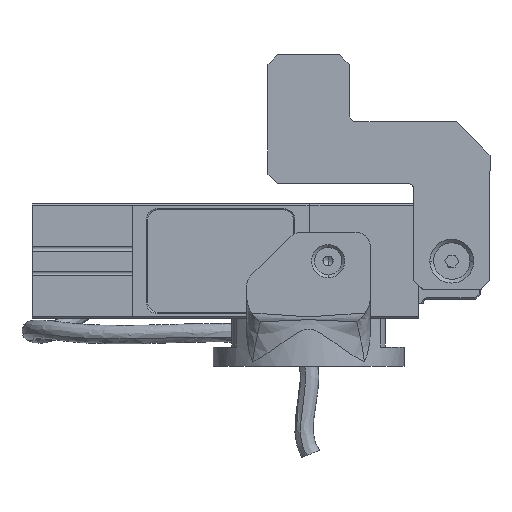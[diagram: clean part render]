
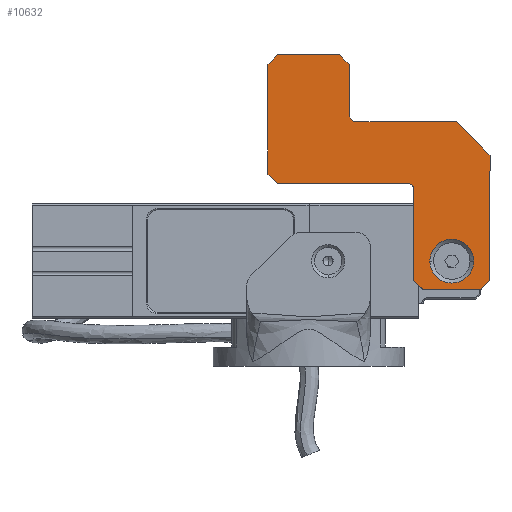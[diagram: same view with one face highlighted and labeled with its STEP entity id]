
A CAD part, front view. The second image highlights one B-rep face of the part: STEP entity #10632.
In plain terms, the highlighted planar face has unit normal (0, -1, 0).
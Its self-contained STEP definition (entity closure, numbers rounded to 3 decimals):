
#34 = CARTESIAN_POINT ( 'NONE',  ( -9., -16.702, 114.472 ) ) ;
#106 = VECTOR ( 'NONE', #20727, 1000. ) ;
#243 = DIRECTION ( 'NONE',  ( -0.707, 0., -0.707 ) ) ;
#344 = AXIS2_PLACEMENT_3D ( 'NONE', #21162, #7048, #23407 ) ;
#629 = DIRECTION ( 'NONE',  ( 0., 0., -1. ) ) ;
#770 = EDGE_LOOP ( 'NONE', ( #10308, #4751, #13344, #13687, #21432, #19445, #21008, #6741, #10876, #15785, #3829, #4426, #8947, #9154, #18694, #15652 ) ) ;
#962 = CARTESIAN_POINT ( 'NONE',  ( 21.5, -16.702, 65.272 ) ) ;
#1064 = CARTESIAN_POINT ( 'NONE',  ( 46.6, -16.702, 78.372 ) ) ;
#1308 = EDGE_CURVE ( 'NONE', #5743, #1812, #15540, .T. ) ;
#1379 = EDGE_CURVE ( 'NONE', #4643, #15500, #13759, .T. ) ;
#1411 = EDGE_CURVE ( 'NONE', #14944, #3708, #5322, .T. ) ;
#1633 = LINE ( 'NONE', #16522, #9131 ) ;
#1692 = CARTESIAN_POINT ( 'NONE',  ( 6., -16.702, 100.472 ) ) ;
#1747 = DIRECTION ( 'NONE',  ( 1., 0., 0. ) ) ;
#1812 = VERTEX_POINT ( 'NONE', #11934 ) ;
#1883 = LINE ( 'NONE', #2230, #10524 ) ;
#2152 = EDGE_LOOP ( 'NONE', ( #15485, #7021 ) ) ;
#2192 = VERTEX_POINT ( 'NONE', #19466 ) ;
#2230 = CARTESIAN_POINT ( 'NONE',  ( 0.75, -16.702, 124.222 ) ) ;
#2591 = VERTEX_POINT ( 'NONE', #3392 ) ;
#2636 = CARTESIAN_POINT ( 'NONE',  ( 21.5, -16.702, 107.472 ) ) ;
#2801 = LINE ( 'NONE', #17223, #14764 ) ;
#2815 = AXIS2_PLACEMENT_3D ( 'NONE', #13275, #20482, #11506 ) ;
#2816 = EDGE_CURVE ( 'NONE', #14944, #6744, #21560, .T. ) ;
#3085 = VECTOR ( 'NONE', #12705, 1000. ) ;
#3392 = CARTESIAN_POINT ( 'NONE',  ( -11., -16.702, 112.472 ) ) ;
#3647 = LINE ( 'NONE', #5060, #15536 ) ;
#3705 = CARTESIAN_POINT ( 'NONE',  ( 19.5, -16.702, 86.472 ) ) ;
#3708 = VERTEX_POINT ( 'NONE', #8165 ) ;
#3829 = ORIENTED_EDGE ( 'NONE', *, *, #23339, .T. ) ;
#4085 = CARTESIAN_POINT ( 'NONE',  ( 18.5, -16.702, 87.472 ) ) ;
#4142 = EDGE_CURVE ( 'NONE', #4750, #14654, #10567, .T. ) ;
#4291 = CARTESIAN_POINT ( 'NONE',  ( -11., -16.702, 114.472 ) ) ;
#4359 = EDGE_CURVE ( 'NONE', #4989, #2591, #1883, .T. ) ;
#4395 = LINE ( 'NONE', #2636, #17334 ) ;
#4426 = ORIENTED_EDGE ( 'NONE', *, *, #1379, .T. ) ;
#4643 = VERTEX_POINT ( 'NONE', #14281 ) ;
#4750 = VERTEX_POINT ( 'NONE', #11526 ) ;
#4751 = ORIENTED_EDGE ( 'NONE', *, *, #2816, .T. ) ;
#4985 = VECTOR ( 'NONE', #11530, 1000. ) ;
#4989 = VERTEX_POINT ( 'NONE', #34 ) ;
#5060 = CARTESIAN_POINT ( 'NONE',  ( 19.5, -16.702, 65.272 ) ) ;
#5268 = VECTOR ( 'NONE', #8230, 1000. ) ;
#5285 = EDGE_CURVE ( 'NONE', #8316, #22894, #11853, .T. ) ;
#5322 = LINE ( 'NONE', #1692, #3085 ) ;
#5385 = CARTESIAN_POINT ( 'NONE',  ( 22.91, -16.702, 71.272 ) ) ;
#5468 = CARTESIAN_POINT ( 'NONE',  ( 7., -16.702, 100.472 ) ) ;
#5743 = VERTEX_POINT ( 'NONE', #12218 ) ;
#6084 = VECTOR ( 'NONE', #1747, 1000. ) ;
#6235 = CARTESIAN_POINT ( 'NONE',  ( 27.5, -16.702, 71.272 ) ) ;
#6741 = ORIENTED_EDGE ( 'NONE', *, *, #22960, .T. ) ;
#6744 = VERTEX_POINT ( 'NONE', #22098 ) ;
#6964 = EDGE_CURVE ( 'NONE', #16924, #2591, #2801, .T. ) ;
#7021 = ORIENTED_EDGE ( 'NONE', *, *, #9970, .F. ) ;
#7048 = DIRECTION ( 'NONE',  ( 0., -1., 0. ) ) ;
#7543 = FACE_BOUND ( 'NONE', #2152, .T. ) ;
#7946 = DIRECTION ( 'NONE',  ( 0., 1., 0. ) ) ;
#8159 = EDGE_CURVE ( 'NONE', #14761, #23183, #12757, .T. ) ;
#8165 = CARTESIAN_POINT ( 'NONE',  ( 28.5, -16.702, 100.472 ) ) ;
#8230 = DIRECTION ( 'NONE',  ( 0.707, 0., 0.707 ) ) ;
#8316 = VERTEX_POINT ( 'NONE', #11300 ) ;
#8531 = VECTOR ( 'NONE', #16049, 1000. ) ;
#8870 = VECTOR ( 'NONE', #10931, 1000. ) ;
#8905 = EDGE_CURVE ( 'NONE', #5743, #6744, #13031, .T. ) ;
#8936 = DIRECTION ( 'NONE',  ( 1., 0., 0. ) ) ;
#8947 = ORIENTED_EDGE ( 'NONE', *, *, #13165, .T. ) ;
#9007 = CARTESIAN_POINT ( 'NONE',  ( 7., -16.702, 100.472 ) ) ;
#9131 = VECTOR ( 'NONE', #14519, 1000. ) ;
#9154 = ORIENTED_EDGE ( 'NONE', *, *, #5285, .T. ) ;
#9970 = EDGE_CURVE ( 'NONE', #14654, #4750, #10700, .T. ) ;
#10069 = AXIS2_PLACEMENT_3D ( 'NONE', #22315, #7946, #22440 ) ;
#10307 = VECTOR ( 'NONE', #629, 1000. ) ;
#10308 = ORIENTED_EDGE ( 'NONE', *, *, #1411, .F. ) ;
#10317 = DIRECTION ( 'NONE',  ( 0.707, 0., -0.707 ) ) ;
#10524 = VECTOR ( 'NONE', #243, 1000. ) ;
#10567 = CIRCLE ( 'NONE', #344, 4.59 ) ;
#10632 = ADVANCED_FACE ( 'NONE', ( #11031, #7543 ), #14595, .T. ) ;
#10700 = CIRCLE ( 'NONE', #18263, 4.59 ) ;
#10876 = ORIENTED_EDGE ( 'NONE', *, *, #13554, .T. ) ;
#10931 = DIRECTION ( 'NONE',  ( 0., 0., -1. ) ) ;
#11031 = FACE_OUTER_BOUND ( 'NONE', #770, .T. ) ;
#11242 = CARTESIAN_POINT ( 'NONE',  ( 6., -16.702, 114.472 ) ) ;
#11300 = CARTESIAN_POINT ( 'NONE',  ( 33.5, -16.702, 65.272 ) ) ;
#11506 = DIRECTION ( 'NONE',  ( 0., 0., -1. ) ) ;
#11526 = CARTESIAN_POINT ( 'NONE',  ( 32.09, -16.702, 71.272 ) ) ;
#11530 = DIRECTION ( 'NONE',  ( 1., 0., 0. ) ) ;
#11853 = LINE ( 'NONE', #1064, #5268 ) ;
#11934 = CARTESIAN_POINT ( 'NONE',  ( 4., -16.702, 114.472 ) ) ;
#11990 = LINE ( 'NONE', #4291, #4985 ) ;
#12168 = VECTOR ( 'NONE', #10317, 1000. ) ;
#12218 = CARTESIAN_POINT ( 'NONE',  ( 6., -16.702, 112.472 ) ) ;
#12520 = LINE ( 'NONE', #19726, #6084 ) ;
#12705 = DIRECTION ( 'NONE',  ( 1., 0., 0. ) ) ;
#12757 = CIRCLE ( 'NONE', #10069, 1. ) ;
#13031 = LINE ( 'NONE', #11242, #22570 ) ;
#13165 = EDGE_CURVE ( 'NONE', #15500, #8316, #3647, .T. ) ;
#13275 = CARTESIAN_POINT ( 'NONE',  ( 19.5, -16.702, 105.472 ) ) ;
#13344 = ORIENTED_EDGE ( 'NONE', *, *, #8905, .F. ) ;
#13554 = EDGE_CURVE ( 'NONE', #20868, #14761, #12520, .T. ) ;
#13567 = DIRECTION ( 'NONE',  ( 1., 0., 0. ) ) ;
#13687 = ORIENTED_EDGE ( 'NONE', *, *, #1308, .T. ) ;
#13759 = LINE ( 'NONE', #20976, #12168 ) ;
#14281 = CARTESIAN_POINT ( 'NONE',  ( 19.5, -16.702, 67.272 ) ) ;
#14519 = DIRECTION ( 'NONE',  ( 0.707, 0., -0.707 ) ) ;
#14595 = PLANE ( 'NONE',  #2815 ) ;
#14654 = VERTEX_POINT ( 'NONE', #5385 ) ;
#14717 = LINE ( 'NONE', #15068, #10307 ) ;
#14761 = VERTEX_POINT ( 'NONE', #4085 ) ;
#14764 = VECTOR ( 'NONE', #21011, 1000. ) ;
#14944 = VERTEX_POINT ( 'NONE', #9007 ) ;
#15068 = CARTESIAN_POINT ( 'NONE',  ( 19.5, -16.702, 105.472 ) ) ;
#15140 = EDGE_CURVE ( 'NONE', #4989, #1812, #11990, .T. ) ;
#15426 = CARTESIAN_POINT ( 'NONE',  ( 16.25, -16.702, 102.222 ) ) ;
#15485 = ORIENTED_EDGE ( 'NONE', *, *, #4142, .F. ) ;
#15500 = VERTEX_POINT ( 'NONE', #962 ) ;
#15536 = VECTOR ( 'NONE', #8936, 1000. ) ;
#15540 = LINE ( 'NONE', #15426, #106 ) ;
#15652 = ORIENTED_EDGE ( 'NONE', *, *, #18451, .T. ) ;
#15785 = ORIENTED_EDGE ( 'NONE', *, *, #8159, .T. ) ;
#16049 = DIRECTION ( 'NONE',  ( -0.707, 0., 0.707 ) ) ;
#16164 = LINE ( 'NONE', #23135, #8870 ) ;
#16522 = CARTESIAN_POINT ( 'NONE',  ( -3.75, -16.702, 82.222 ) ) ;
#16794 = CARTESIAN_POINT ( 'NONE',  ( -11., -16.702, 89.472 ) ) ;
#16924 = VERTEX_POINT ( 'NONE', #16794 ) ;
#17063 = DIRECTION ( 'NONE',  ( -0.707, 0., 0.707 ) ) ;
#17223 = CARTESIAN_POINT ( 'NONE',  ( -11., -16.702, 105.472 ) ) ;
#17334 = VECTOR ( 'NONE', #17063, 1000. ) ;
#18044 = EDGE_CURVE ( 'NONE', #2192, #22894, #16164, .T. ) ;
#18263 = AXIS2_PLACEMENT_3D ( 'NONE', #6235, #20668, #13567 ) ;
#18448 = DIRECTION ( 'NONE',  ( 0., 0., -1. ) ) ;
#18451 = EDGE_CURVE ( 'NONE', #2192, #3708, #4395, .T. ) ;
#18694 = ORIENTED_EDGE ( 'NONE', *, *, #18044, .F. ) ;
#19445 = ORIENTED_EDGE ( 'NONE', *, *, #4359, .T. ) ;
#19466 = CARTESIAN_POINT ( 'NONE',  ( 35.5, -16.702, 93.472 ) ) ;
#19726 = CARTESIAN_POINT ( 'NONE',  ( -11., -16.702, 87.472 ) ) ;
#20482 = DIRECTION ( 'NONE',  ( 0., -1., 0. ) ) ;
#20668 = DIRECTION ( 'NONE',  ( 0., -1., 0. ) ) ;
#20727 = DIRECTION ( 'NONE',  ( -0.707, 0., 0.707 ) ) ;
#20868 = VERTEX_POINT ( 'NONE', #22711 ) ;
#20976 = CARTESIAN_POINT ( 'NONE',  ( 0.4, -16.702, 86.372 ) ) ;
#21008 = ORIENTED_EDGE ( 'NONE', *, *, #6964, .F. ) ;
#21011 = DIRECTION ( 'NONE',  ( 0., 0., 1. ) ) ;
#21126 = CARTESIAN_POINT ( 'NONE',  ( 35.5, -16.702, 67.272 ) ) ;
#21162 = CARTESIAN_POINT ( 'NONE',  ( 27.5, -16.702, 71.272 ) ) ;
#21432 = ORIENTED_EDGE ( 'NONE', *, *, #15140, .F. ) ;
#21560 = LINE ( 'NONE', #5468, #8531 ) ;
#22098 = CARTESIAN_POINT ( 'NONE',  ( 6., -16.702, 101.472 ) ) ;
#22315 = CARTESIAN_POINT ( 'NONE',  ( 18.5, -16.702, 86.472 ) ) ;
#22440 = DIRECTION ( 'NONE',  ( 0., 0., -1. ) ) ;
#22570 = VECTOR ( 'NONE', #18448, 1000. ) ;
#22711 = CARTESIAN_POINT ( 'NONE',  ( -9., -16.702, 87.472 ) ) ;
#22894 = VERTEX_POINT ( 'NONE', #21126 ) ;
#22960 = EDGE_CURVE ( 'NONE', #16924, #20868, #1633, .T. ) ;
#23135 = CARTESIAN_POINT ( 'NONE',  ( 35.5, -16.702, 105.472 ) ) ;
#23183 = VERTEX_POINT ( 'NONE', #3705 ) ;
#23339 = EDGE_CURVE ( 'NONE', #23183, #4643, #14717, .T. ) ;
#23407 = DIRECTION ( 'NONE',  ( 1., 0., 0. ) ) ;
